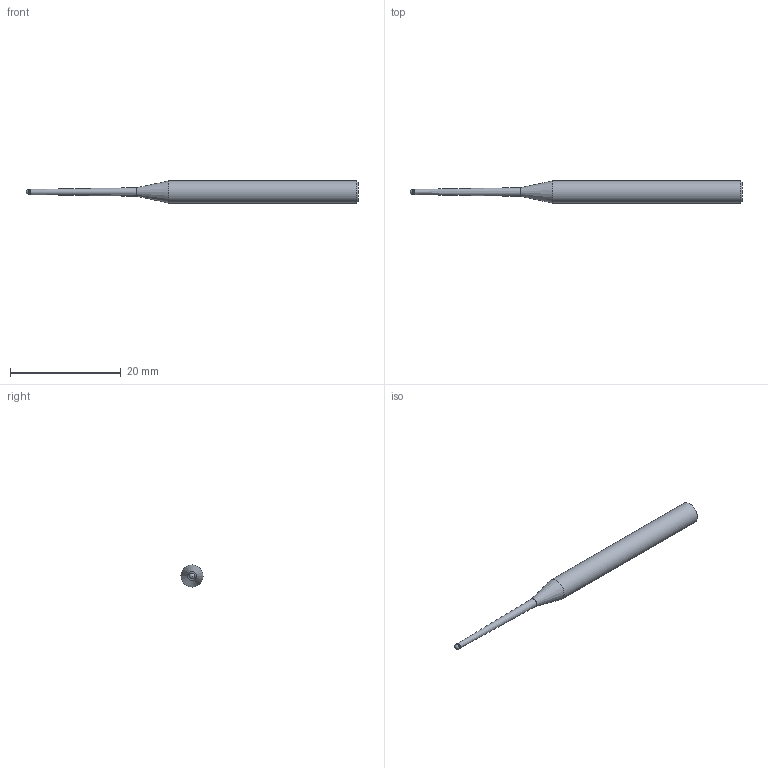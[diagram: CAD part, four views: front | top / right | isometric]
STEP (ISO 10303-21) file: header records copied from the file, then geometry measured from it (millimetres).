
FILE_DESCRIPTION(/* description */ (''),/* implementation_level */ '2;1');
FILE_NAME(/* name */ 'HGXPB2010-20-T0.9 0460.stp',/* time_stamp */ '2026-01-22T08:58:35+08:00',/* author */ (''),/* organization */ (''),/* preprocessor_version */ 'ST-DEVELOPER v16',/* originating_system */ 'SIEMENS PLM Software NX 10.0',/* authorisation */ '');
FILE_SCHEMA (('CONFIG_CONTROL_DESIGN'));
Length unit declared in the file: millimetre
Products named in the file (1): HGXPB2010-20-T0.9 0460_x_t
Bounding box: 60 x 4 x 4 mm (x, y, z)
Volume: 491.8 mm3; surface area: 570.8 mm2
Topology: 1 solids, 1 shells, 9 faces, 17 edges, 10 vertices
Faces by surface type: cylinder 3, cone 3, plane 2, sphere 1
Full cylindrical faces by diameter (mm): 0.95 x1, 1 x1, 4 x1
Entity records: 258 total; most frequent: DIRECTION 36, CARTESIAN_POINT 26, AXIS2_PLACEMENT_3D 18, EDGE_LOOP 16, ORIENTED_EDGE 16, FACE_BOUND 14, ADVANCED_FACE 9, VERTEX_POINT 8
